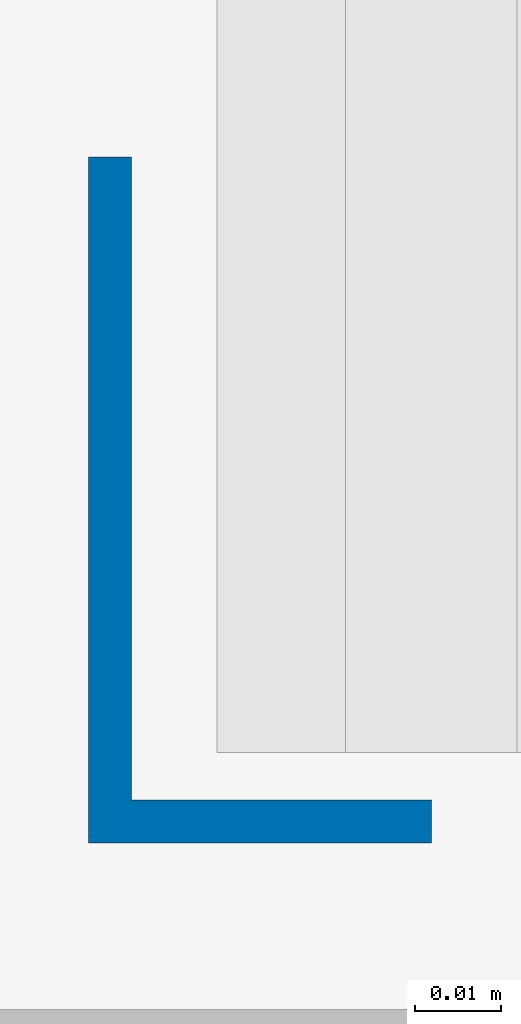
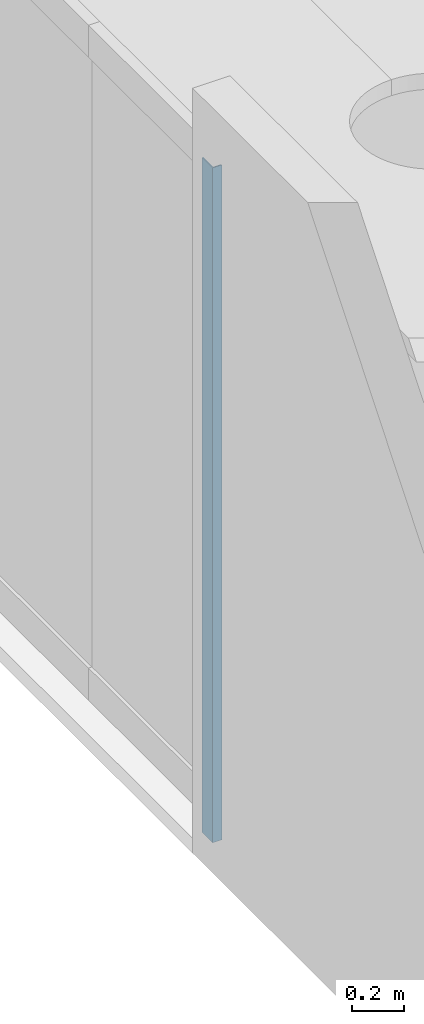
# One storey, part 5 of 12: 1 wall.
"""IFC2X3 building model written with IfcOpenShell, lengths in millimetres."""

from ifc_helpers import new_model, entity, si_unit, converted_unit, derived_unit, direction, frame, origin_with_axes, place, context, subcontext, project, spatial, polyline, outline, extrude, type_object, element, save


model = new_model("IFC2X3")

# Units and contexts
model_context = context("Model", 3, precision=0.01, world=frame((0.0, 4.29681676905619e-09, 0.0)), true_north=direction((6.12323399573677e-17, 1.0)))
plan_context = context("Plan", 3, precision=0.01, world=frame((0.0, 4.29681676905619e-09, 0.0)), true_north=direction((6.12323399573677e-17, 1.0)))
body_context = subcontext(model_context, "Body", "Model", "MODEL_VIEW")
ifc_project = project(units=[converted_unit("PLANEANGLEUNIT", "DEGREE", entity("IfcPositiveLengthMeasure", 0.0174532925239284), si_unit("PLANEANGLEUNIT", "RADIAN"), dimensions=[0, 0, 0, 0, 0, 0, 0]), si_unit("AREAUNIT", "SQUARE_METRE"), si_unit("LENGTHUNIT", "METRE", prefix="MILLI"), si_unit("MASSUNIT", "GRAM", prefix="KILO"), si_unit("POWERUNIT", "WATT"), si_unit("PRESSUREUNIT", "PASCAL", prefix="KILO"), si_unit("FORCEUNIT", "NEWTON", prefix="KILO"), si_unit("ELECTRICVOLTAGEUNIT", "VOLT"), si_unit("ELECTRICCURRENTUNIT", "AMPERE"), si_unit("THERMODYNAMICTEMPERATUREUNIT", "DEGREE_CELSIUS"), si_unit("TIMEUNIT", "SECOND"), si_unit("VOLUMEUNIT", "CUBIC_METRE"), derived_unit("LINEARVELOCITYUNIT", [(si_unit("LENGTHUNIT", "METRE"), 1), (si_unit("TIMEUNIT", "SECOND"), -1)]), derived_unit("VOLUMETRICFLOWRATEUNIT", [(si_unit("VOLUMEUNIT", "CUBIC_METRE"), 1), (si_unit("TIMEUNIT", "SECOND"), -1)]), derived_unit("THERMALTRANSMITTANCEUNIT", [(si_unit("POWERUNIT", "WATT"), 1), (si_unit("THERMODYNAMICTEMPERATUREUNIT", "KELVIN"), -1), (si_unit("AREAUNIT", "SQUARE_METRE"), -1)]), derived_unit("SOUNDPRESSUREUNIT", [(si_unit("PRESSUREUNIT", "PASCAL"), 1)])], contexts=[model_context, plan_context])

# Site, building, storey
site_placement = place(None, origin_with_axes())
site = spatial("IfcSite", under=ifc_project, at=site_placement, Name="ENGM", CompositionType="ELEMENT")
building_placement = place(site_placement, origin_with_axes())
building = spatial("IfcBuilding", under=site, at=building_placement, Name="TH", CompositionType="ELEMENT")
storey_placement = place(building_placement, frame((0.0, 0.0, 210200.0), z_axis=(0.0, 0.0, 1.0), x_axis=(1.0, 0.0, 0.0)))
storey = spatial("IfcBuildingStorey", under=building, at=storey_placement, Name="Nivå F - 0,7 m", CompositionType="ELEMENT", Elevation=210200.0)

# Wall
wall_type = type_object("IfcWallType", Name="A270 KL-S04:A270 - L-profil", PredefinedType="NOTDEFINED")
wall_placement = place(storey_placement, frame((1114304.0, 466544.444283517, -69.0), z_axis=(0.0, 0.0, 1.0), x_axis=(1.0, 0.0, 0.0)))
element("IfcWall", 1, at=wall_placement, inside=storey, type_object=wall_type, Name="A270 KL-S04:A270 - L-profil", ObjectType="A270 KL-S04:A270 - L-profil", context=body_context, shape_type="SweptSolid", body=[
    extrude(outline(polyline([(-28.3333333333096, -25.0), (-23.3333333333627, -25.0), (-23.3333333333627, 10.0), (51.6666666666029, 10.0), (51.6666666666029, 15.0), (-28.3333333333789, 15.0), (-28.3333333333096, -25.0)])), frame((1820.99999999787, 28.3333333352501, 0.0), z_axis=(0.0, 0.0, 1.0), x_axis=(0.0, 1.0, 0.0)), (0.0, 0.0, 1.0), 3150.00000000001),
])

save(model, "model.ifc")
